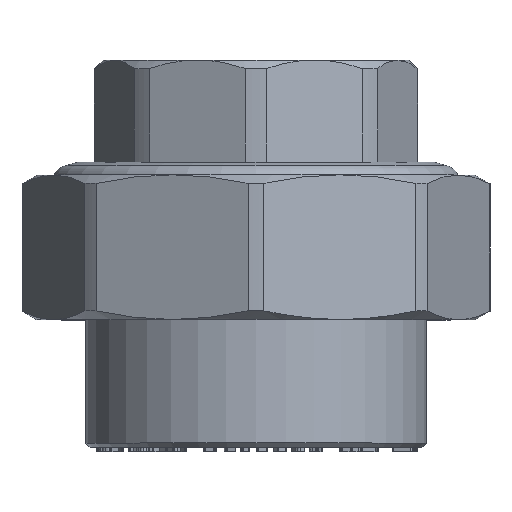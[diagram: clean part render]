
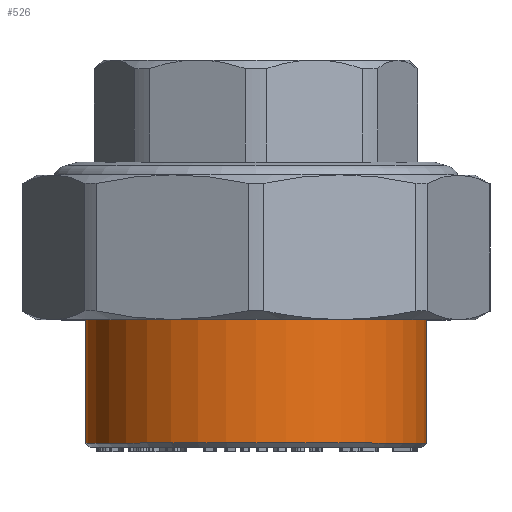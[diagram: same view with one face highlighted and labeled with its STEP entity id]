
A CAD part, top view. The second image highlights one B-rep face of the part: STEP entity #526.
In plain terms, the highlighted cylindrical face has radius 20 mm (diameter 40 mm), a full revolution.
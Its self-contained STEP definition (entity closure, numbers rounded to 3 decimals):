
#526=ADVANCED_FACE('',(#3906,#3908),#3910,.T.);
#3906=FACE_OUTER_BOUND('',#3907,.T.);
#3907=EDGE_LOOP('',(#8834));
#3908=FACE_OUTER_BOUND('',#3909,.T.);
#3909=EDGE_LOOP('',(#8835));
#3910=CYLINDRICAL_SURFACE('',#3911,20.);
#3911=AXIS2_PLACEMENT_3D('',#3912,#3913,#3914);
#3912=CARTESIAN_POINT('',(0.,0.,0.));
#3913=DIRECTION('',(0.,1.,0.));
#3914=DIRECTION('',(-1.,0.,0.));
#8834=ORIENTED_EDGE('',*,*,#12178,.F.);
#8835=ORIENTED_EDGE('',*,*,#11277,.T.);
#11277=EDGE_CURVE('',#13779,#13779,#13780,.T.);
#12178=EDGE_CURVE('',#15132,#15132,#15133,.T.);
#13779=VERTEX_POINT('',#18554);
#13780=CIRCLE('',#18555,20.);
#15132=VERTEX_POINT('',#21711);
#15133=CIRCLE('',#21712,20.);
#18554=CARTESIAN_POINT('',(-20.,0.5,0.));
#18555=AXIS2_PLACEMENT_3D('',#18556,#18557,#18558);
#18556=CARTESIAN_POINT('',(0.,0.5,0.));
#18557=DIRECTION('',(0.,1.,0.));
#18558=DIRECTION('',(-1.,0.,0.));
#21711=CARTESIAN_POINT('',(-20.,18.5,0.));
#21712=AXIS2_PLACEMENT_3D('',#21713,#21714,#21715);
#21713=CARTESIAN_POINT('',(0.,18.5,0.));
#21714=DIRECTION('',(0.,1.,0.));
#21715=DIRECTION('',(-1.,0.,0.));
